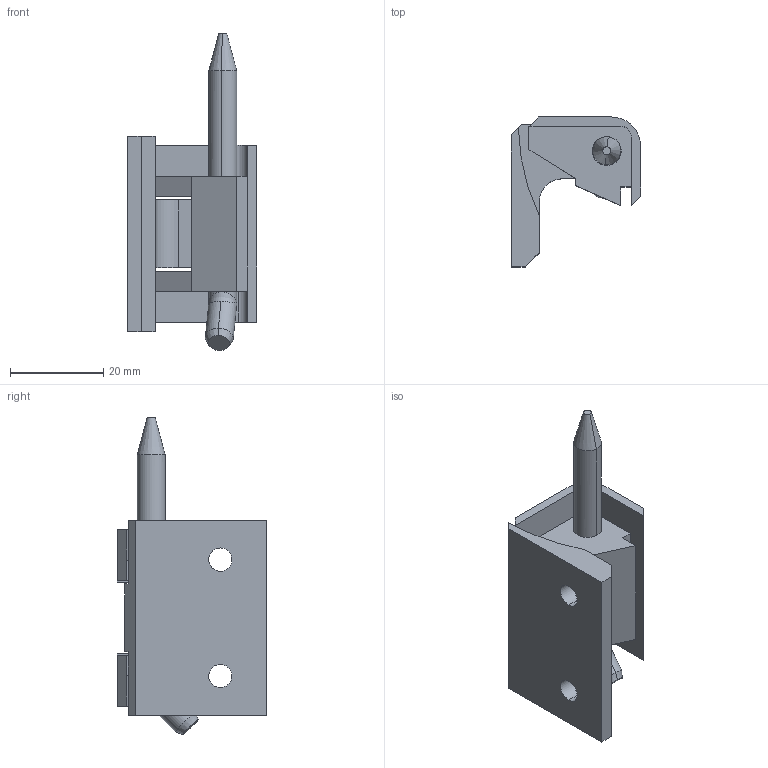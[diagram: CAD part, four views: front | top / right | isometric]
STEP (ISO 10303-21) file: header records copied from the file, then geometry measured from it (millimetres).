
FILE_DESCRIPTION (( 'STEP AP214' ), '1' );
FILE_NAME ('3.ZN80.001.STEP', '2010-02-09T16:36:59', ( '£ukaszC' ), ( '' ), 'SwSTEP 2.0', 'SolidWorks 2008', '' );
FILE_SCHEMA (( 'AUTOMOTIVE_DESIGN' ));
Length unit declared in the file: millimetre
Products named in the file (4): 3A.ZN80.001.01_Domyœlna; 3.ZN80.001; 3A.ZN80.001.02_Domyœlna; 3A.ZN80.001.03_Domyœlna
Assembly tree (3 placements, depth 2):
  3.ZN80.001
    3A.ZN80.001.01_Domyœlna
    3A.ZN80.001.03_Domyœlna
    3A.ZN80.001.02_Domyœlna
Bounding box: 27.8 x 32.15 x 68.13 mm (x, y, z)
Volume: 14579 mm3; surface area: 9440 mm2
Topology: 3 solids, 3 shells, 73 faces, 199 edges, 126 vertices
Faces by surface type: plane 43, cylinder 23, cone 4, sphere 2, bspline 1
Entity records: 2546 total; most frequent: CARTESIAN_POINT 515, DIRECTION 398, ORIENTED_EDGE 390, EDGE_CURVE 195, VECTOR 136, LINE 136, AXIS2_PLACEMENT_3D 131, VERTEX_POINT 126
